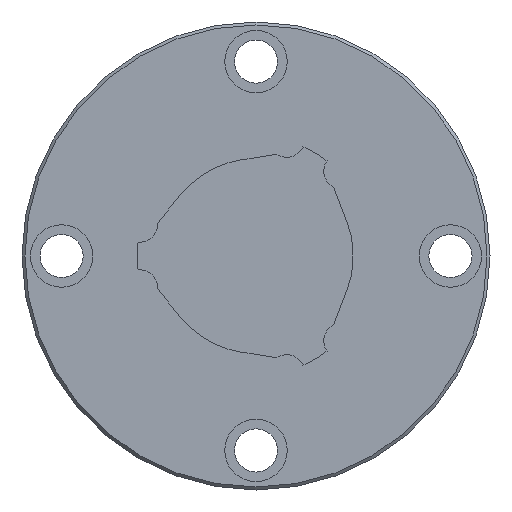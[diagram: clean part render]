
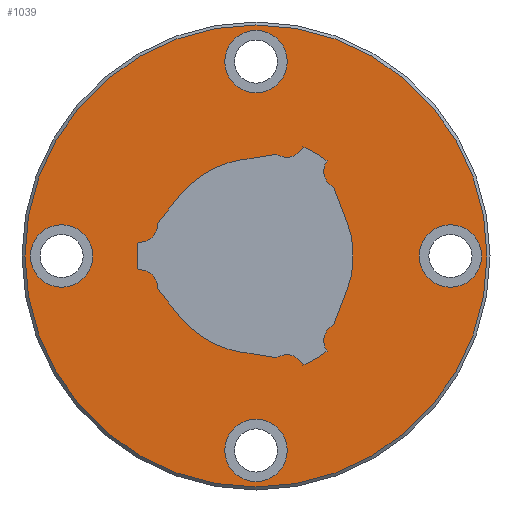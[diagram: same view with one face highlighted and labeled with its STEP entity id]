
A CAD part, left-side view. The second image highlights one B-rep face of the part: STEP entity #1039.
In plain terms, the highlighted planar face has unit normal (-1, 0, 0).
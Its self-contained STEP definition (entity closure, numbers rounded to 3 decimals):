
#45=PLANE('',#1156);
#91=LINE('',#1728,#151);
#92=LINE('',#1737,#152);
#93=LINE('',#1741,#153);
#94=LINE('',#1749,#154);
#95=LINE('',#1753,#155);
#96=LINE('',#1761,#156);
#151=VECTOR('',#1389,1000.);
#152=VECTOR('',#1396,1000.);
#153=VECTOR('',#1399,1000.);
#154=VECTOR('',#1406,1000.);
#155=VECTOR('',#1409,1000.);
#156=VECTOR('',#1416,1000.);
#289=ORIENTED_EDGE('',*,*,#513,.F.);
#290=ORIENTED_EDGE('',*,*,#514,.F.);
#291=ORIENTED_EDGE('',*,*,#515,.T.);
#292=ORIENTED_EDGE('',*,*,#516,.T.);
#293=ORIENTED_EDGE('',*,*,#517,.T.);
#294=ORIENTED_EDGE('',*,*,#518,.T.);
#295=ORIENTED_EDGE('',*,*,#519,.F.);
#296=ORIENTED_EDGE('',*,*,#520,.T.);
#297=ORIENTED_EDGE('',*,*,#521,.F.);
#298=ORIENTED_EDGE('',*,*,#522,.T.);
#299=ORIENTED_EDGE('',*,*,#523,.T.);
#300=ORIENTED_EDGE('',*,*,#524,.T.);
#301=ORIENTED_EDGE('',*,*,#525,.F.);
#302=ORIENTED_EDGE('',*,*,#526,.T.);
#303=ORIENTED_EDGE('',*,*,#527,.F.);
#304=ORIENTED_EDGE('',*,*,#528,.T.);
#305=ORIENTED_EDGE('',*,*,#529,.T.);
#306=ORIENTED_EDGE('',*,*,#530,.T.);
#307=ORIENTED_EDGE('',*,*,#531,.F.);
#308=ORIENTED_EDGE('',*,*,#532,.T.);
#309=ORIENTED_EDGE('',*,*,#533,.F.);
#310=ORIENTED_EDGE('',*,*,#534,.T.);
#311=ORIENTED_EDGE('',*,*,#535,.T.);
#513=EDGE_CURVE('',#634,#634,#725,.T.);
#514=EDGE_CURVE('',#635,#635,#726,.F.);
#515=EDGE_CURVE('',#636,#636,#727,.T.);
#516=EDGE_CURVE('',#637,#637,#728,.T.);
#517=EDGE_CURVE('',#638,#638,#729,.T.);
#518=EDGE_CURVE('',#639,#640,#91,.T.);
#519=EDGE_CURVE('',#641,#640,#730,.T.);
#520=EDGE_CURVE('',#641,#642,#731,.T.);
#521=EDGE_CURVE('',#643,#642,#732,.T.);
#522=EDGE_CURVE('',#643,#644,#92,.T.);
#523=EDGE_CURVE('',#644,#645,#733,.T.);
#524=EDGE_CURVE('',#645,#646,#93,.T.);
#525=EDGE_CURVE('',#647,#646,#734,.T.);
#526=EDGE_CURVE('',#647,#648,#735,.T.);
#527=EDGE_CURVE('',#649,#648,#736,.T.);
#528=EDGE_CURVE('',#649,#650,#94,.T.);
#529=EDGE_CURVE('',#650,#651,#737,.T.);
#530=EDGE_CURVE('',#651,#652,#95,.T.);
#531=EDGE_CURVE('',#653,#652,#738,.T.);
#532=EDGE_CURVE('',#653,#654,#739,.T.);
#533=EDGE_CURVE('',#655,#654,#740,.T.);
#534=EDGE_CURVE('',#655,#656,#96,.T.);
#535=EDGE_CURVE('',#656,#639,#741,.T.);
#634=VERTEX_POINT('',#1719);
#635=VERTEX_POINT('',#1721);
#636=VERTEX_POINT('',#1723);
#637=VERTEX_POINT('',#1725);
#638=VERTEX_POINT('',#1727);
#639=VERTEX_POINT('',#1729);
#640=VERTEX_POINT('',#1730);
#641=VERTEX_POINT('',#1732);
#642=VERTEX_POINT('',#1734);
#643=VERTEX_POINT('',#1736);
#644=VERTEX_POINT('',#1738);
#645=VERTEX_POINT('',#1740);
#646=VERTEX_POINT('',#1742);
#647=VERTEX_POINT('',#1744);
#648=VERTEX_POINT('',#1746);
#649=VERTEX_POINT('',#1748);
#650=VERTEX_POINT('',#1750);
#651=VERTEX_POINT('',#1752);
#652=VERTEX_POINT('',#1754);
#653=VERTEX_POINT('',#1756);
#654=VERTEX_POINT('',#1758);
#655=VERTEX_POINT('',#1760);
#656=VERTEX_POINT('',#1762);
#725=CIRCLE('',#1157,96.25);
#726=CIRCLE('',#1158,13.);
#727=CIRCLE('',#1159,13.);
#728=CIRCLE('',#1160,13.);
#729=CIRCLE('',#1161,13.);
#730=CIRCLE('',#1162,7.43);
#731=CIRCLE('',#1163,49.5);
#732=CIRCLE('',#1164,7.43);
#733=CIRCLE('',#1165,40.5);
#734=CIRCLE('',#1166,7.43);
#735=CIRCLE('',#1167,49.5);
#736=CIRCLE('',#1168,7.43);
#737=CIRCLE('',#1169,40.5);
#738=CIRCLE('',#1170,7.43);
#739=CIRCLE('',#1171,49.5);
#740=CIRCLE('',#1172,7.43);
#741=CIRCLE('',#1173,40.5);
#797=EDGE_LOOP('',(#289));
#798=EDGE_LOOP('',(#290));
#799=EDGE_LOOP('',(#291));
#800=EDGE_LOOP('',(#292));
#801=EDGE_LOOP('',(#293));
#802=EDGE_LOOP('',(#294,#295,#296,#297,#298,#299,#300,#301,#302,#303,#304,
#305,#306,#307,#308,#309,#310,#311));
#899=FACE_BOUND('',#797,.T.);
#900=FACE_BOUND('',#798,.T.);
#901=FACE_BOUND('',#799,.T.);
#902=FACE_BOUND('',#800,.T.);
#903=FACE_BOUND('',#801,.T.);
#904=FACE_BOUND('',#802,.T.);
#1039=ADVANCED_FACE('',(#899,#900,#901,#902,#903,#904),#45,.F.);
#1156=AXIS2_PLACEMENT_3D('',#1717,#1377,#1378);
#1157=AXIS2_PLACEMENT_3D('',#1718,#1379,#1380);
#1158=AXIS2_PLACEMENT_3D('',#1720,#1381,#1382);
#1159=AXIS2_PLACEMENT_3D('',#1722,#1383,#1384);
#1160=AXIS2_PLACEMENT_3D('',#1724,#1385,#1386);
#1161=AXIS2_PLACEMENT_3D('',#1726,#1387,#1388);
#1162=AXIS2_PLACEMENT_3D('',#1731,#1390,#1391);
#1163=AXIS2_PLACEMENT_3D('',#1733,#1392,#1393);
#1164=AXIS2_PLACEMENT_3D('',#1735,#1394,#1395);
#1165=AXIS2_PLACEMENT_3D('',#1739,#1397,#1398);
#1166=AXIS2_PLACEMENT_3D('',#1743,#1400,#1401);
#1167=AXIS2_PLACEMENT_3D('',#1745,#1402,#1403);
#1168=AXIS2_PLACEMENT_3D('',#1747,#1404,#1405);
#1169=AXIS2_PLACEMENT_3D('',#1751,#1407,#1408);
#1170=AXIS2_PLACEMENT_3D('',#1755,#1410,#1411);
#1171=AXIS2_PLACEMENT_3D('',#1757,#1412,#1413);
#1172=AXIS2_PLACEMENT_3D('',#1759,#1414,#1415);
#1173=AXIS2_PLACEMENT_3D('',#1763,#1417,#1418);
#1377=DIRECTION('',(1.,0.,0.));
#1378=DIRECTION('',(0.,0.,-1.));
#1379=DIRECTION('',(1.,0.,0.));
#1380=DIRECTION('',(0.,0.,-1.));
#1381=DIRECTION('',(1.,0.,0.));
#1382=DIRECTION('',(0.,0.,-1.));
#1383=DIRECTION('',(1.,0.,0.));
#1384=DIRECTION('',(0.,0.,-1.));
#1385=DIRECTION('',(1.,0.,0.));
#1386=DIRECTION('',(0.,0.,-1.));
#1387=DIRECTION('',(1.,0.,0.));
#1388=DIRECTION('',(0.,0.,-1.));
#1389=DIRECTION('',(0.,-0.988,0.156));
#1390=DIRECTION('',(1.,0.,0.));
#1391=DIRECTION('',(0.,0.,-1.));
#1392=DIRECTION('',(1.,0.,0.));
#1393=DIRECTION('',(0.,0.,-1.));
#1394=DIRECTION('',(1.,0.,0.));
#1395=DIRECTION('',(0.,0.,-1.));
#1396=DIRECTION('',(0.,-0.358,-0.934));
#1397=DIRECTION('',(1.,0.,0.));
#1398=DIRECTION('',(0.,0.,-1.));
#1399=DIRECTION('',(0.,0.358,-0.934));
#1400=DIRECTION('',(1.,0.,0.));
#1401=DIRECTION('',(0.,0.,-1.));
#1402=DIRECTION('',(1.,0.,0.));
#1403=DIRECTION('',(0.,0.,-1.));
#1404=DIRECTION('',(1.,0.,0.));
#1405=DIRECTION('',(0.,0.,-1.));
#1406=DIRECTION('',(0.,0.988,0.156));
#1407=DIRECTION('',(1.,0.,0.));
#1408=DIRECTION('',(0.,0.,-1.));
#1409=DIRECTION('',(0.,0.629,0.777));
#1410=DIRECTION('',(1.,0.,0.));
#1411=DIRECTION('',(0.,0.,-1.));
#1412=DIRECTION('',(1.,0.,0.));
#1413=DIRECTION('',(0.,0.,-1.));
#1414=DIRECTION('',(1.,0.,0.));
#1415=DIRECTION('',(0.,0.,-1.));
#1416=DIRECTION('',(0.,-0.629,0.777));
#1417=DIRECTION('',(1.,0.,0.));
#1418=DIRECTION('',(0.,0.,-1.));
#1717=CARTESIAN_POINT('',(0.,0.,0.));
#1718=CARTESIAN_POINT('',(0.,0.,0.));
#1719=CARTESIAN_POINT('',(0.,0.,-96.25));
#1720=CARTESIAN_POINT('',(0.,81.,0.));
#1721=CARTESIAN_POINT('',(0.,81.,-13.));
#1722=CARTESIAN_POINT('',(0.,0.,81.));
#1723=CARTESIAN_POINT('',(0.,0.,68.));
#1724=CARTESIAN_POINT('',(0.,-81.,0.));
#1725=CARTESIAN_POINT('',(0.,-81.,-13.));
#1726=CARTESIAN_POINT('',(0.,0.,-81.));
#1727=CARTESIAN_POINT('',(0.,0.,-94.));
#1728=CARTESIAN_POINT('',(0.,6.336,40.001));
#1729=CARTESIAN_POINT('',(0.,6.336,40.001));
#1730=CARTESIAN_POINT('',(0.,-8.663,42.377));
#1731=CARTESIAN_POINT('',(0.,-12.791,48.555));
#1732=CARTESIAN_POINT('',(0.,-19.553,45.475));
#1733=CARTESIAN_POINT('',(0.,0.,0.));
#1734=CARTESIAN_POINT('',(0.,-29.606,39.671));
#1735=CARTESIAN_POINT('',(0.,-35.654,35.355));
#1736=CARTESIAN_POINT('',(0.,-32.368,28.691));
#1737=CARTESIAN_POINT('',(0.,-32.368,28.691));
#1738=CARTESIAN_POINT('',(0.,-37.81,14.514));
#1739=CARTESIAN_POINT('',(0.,0.,0.));
#1740=CARTESIAN_POINT('',(0.,-37.81,-14.514));
#1741=CARTESIAN_POINT('',(0.,-37.81,-14.514));
#1742=CARTESIAN_POINT('',(0.,-32.368,-28.691));
#1743=CARTESIAN_POINT('',(0.,-35.654,-35.355));
#1744=CARTESIAN_POINT('',(0.,-29.606,-39.671));
#1745=CARTESIAN_POINT('',(0.,0.,0.));
#1746=CARTESIAN_POINT('',(0.,-19.553,-45.475));
#1747=CARTESIAN_POINT('',(0.,-12.791,-48.555));
#1748=CARTESIAN_POINT('',(0.,-8.663,-42.377));
#1749=CARTESIAN_POINT('',(0.,-8.663,-42.377));
#1750=CARTESIAN_POINT('',(0.,6.336,-40.001));
#1751=CARTESIAN_POINT('',(0.,0.,0.));
#1752=CARTESIAN_POINT('',(0.,31.474,-25.487));
#1753=CARTESIAN_POINT('',(0.,31.474,-25.487));
#1754=CARTESIAN_POINT('',(0.,41.031,-13.686));
#1755=CARTESIAN_POINT('',(0.,48.445,-13.2));
#1756=CARTESIAN_POINT('',(0.,49.159,-5.804));
#1757=CARTESIAN_POINT('',(0.,0.,0.));
#1758=CARTESIAN_POINT('',(0.,49.159,5.804));
#1759=CARTESIAN_POINT('',(0.,48.445,13.2));
#1760=CARTESIAN_POINT('',(0.,41.031,13.686));
#1761=CARTESIAN_POINT('',(0.,41.031,13.686));
#1762=CARTESIAN_POINT('',(0.,31.474,25.487));
#1763=CARTESIAN_POINT('',(0.,0.,0.));
